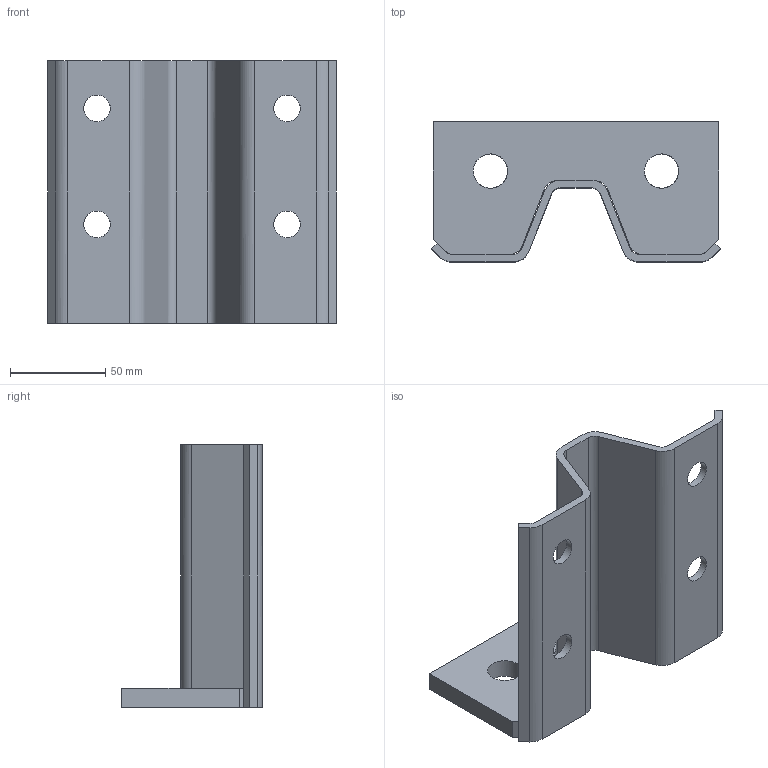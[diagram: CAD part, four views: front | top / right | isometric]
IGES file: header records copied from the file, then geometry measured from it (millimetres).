
Global section: file name: ZB155W90; native system: Autodesk RealDWG; preprocessor: Autodesk Translation Framework DWG producer (atf_dwg_producer); organization: unknown; date: 20230703.112428; units: centimetre
Bounding box: 151.72 x 74 x 138 mm (x, y, z)
Volume: 190630 mm3; surface area: 80146.7 mm2
Topology: 2 solids, 2 shells, 54 faces, 158 edges, 108 vertices
Faces by surface type: bspline 54
